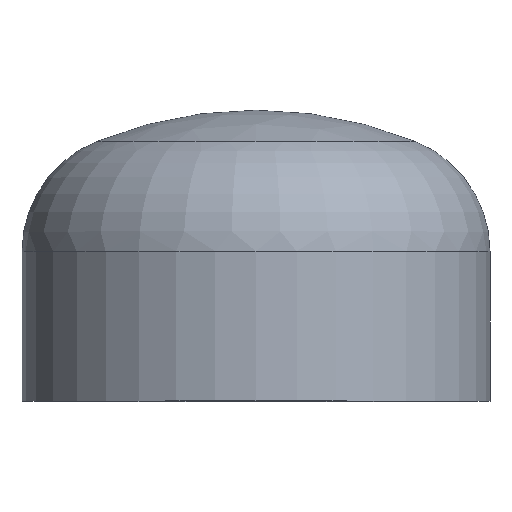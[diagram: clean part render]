
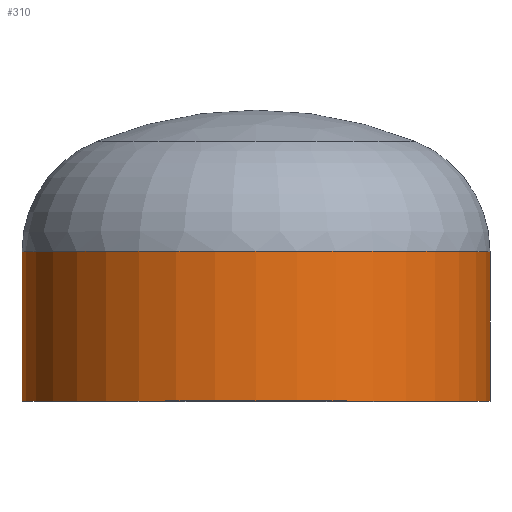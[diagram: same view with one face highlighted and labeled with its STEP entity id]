
A CAD part, top view. The second image highlights one B-rep face of the part: STEP entity #310.
In plain terms, the highlighted cylindrical face has radius 203.2 mm (diameter 406.4 mm), a partial arc.
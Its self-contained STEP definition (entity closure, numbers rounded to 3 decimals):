
#8 = VERTEX_POINT ( 'NONE', #279 ) ;
#13 = CARTESIAN_POINT ( 'NONE',  ( 0., 0., 0. ) ) ;
#18 = ORIENTED_EDGE ( 'NONE', *, *, #376, .T. ) ;
#24 = AXIS2_PLACEMENT_3D ( 'NONE', #274, #59, #297 ) ;
#35 = VERTEX_POINT ( 'NONE', #239 ) ;
#37 = CIRCLE ( 'NONE', #24, 203.2 ) ;
#59 = DIRECTION ( 'NONE',  ( 0., -1., 0. ) ) ;
#63 = VERTEX_POINT ( 'NONE', #269 ) ;
#69 = AXIS2_PLACEMENT_3D ( 'NONE', #13, #236, #248 ) ;
#74 = AXIS2_PLACEMENT_3D ( 'NONE', #97, #118, #139 ) ;
#97 = CARTESIAN_POINT ( 'NONE',  ( 0., 0., 0. ) ) ;
#102 = ORIENTED_EDGE ( 'NONE', *, *, #337, .F. ) ;
#107 = ORIENTED_EDGE ( 'NONE', *, *, #347, .F. ) ;
#110 = LINE ( 'NONE', #193, #314 ) ;
#111 = ORIENTED_EDGE ( 'NONE', *, *, #359, .T. ) ;
#118 = DIRECTION ( 'NONE',  ( 0., -1., 0. ) ) ;
#125 = VERTEX_POINT ( 'NONE', #328 ) ;
#139 = DIRECTION ( 'NONE',  ( 1., 0., 0. ) ) ;
#193 = CARTESIAN_POINT ( 'NONE',  ( -203.2, 0., 0. ) ) ;
#210 = FACE_OUTER_BOUND ( 'NONE', #380, .T. ) ;
#236 = DIRECTION ( 'NONE',  ( 0., -1., 0. ) ) ;
#239 = CARTESIAN_POINT ( 'NONE',  ( -203.2, 0., 0. ) ) ;
#248 = DIRECTION ( 'NONE',  ( 1., 0., 0. ) ) ;
#267 = VECTOR ( 'NONE', #389, 1000. ) ;
#269 = CARTESIAN_POINT ( 'NONE',  ( 203.2, 0., 0. ) ) ;
#274 = CARTESIAN_POINT ( 'NONE',  ( 0., 130., 0. ) ) ;
#275 = CIRCLE ( 'NONE', #74, 203.2 ) ;
#279 = CARTESIAN_POINT ( 'NONE',  ( 203.2, 130., 0. ) ) ;
#297 = DIRECTION ( 'NONE',  ( 1., 0., 0. ) ) ;
#310 = ADVANCED_FACE ( 'NONE', ( #210 ), #386, .T. ) ;
#314 = VECTOR ( 'NONE', #341, 1000. ) ;
#328 = CARTESIAN_POINT ( 'NONE',  ( -203.2, 130., 0. ) ) ;
#329 = LINE ( 'NONE', #391, #267 ) ;
#337 = EDGE_CURVE ( 'NONE', #8, #63, #329, .T. ) ;
#341 = DIRECTION ( 'NONE',  ( 0., -1., 0. ) ) ;
#347 = EDGE_CURVE ( 'NONE', #63, #35, #275, .T. ) ;
#359 = EDGE_CURVE ( 'NONE', #125, #35, #110, .T. ) ;
#376 = EDGE_CURVE ( 'NONE', #8, #125, #37, .T. ) ;
#380 = EDGE_LOOP ( 'NONE', ( #18, #111, #107, #102 ) ) ;
#386 = CYLINDRICAL_SURFACE ( 'NONE', #69, 203.2 ) ;
#389 = DIRECTION ( 'NONE',  ( 0., -1., 0. ) ) ;
#391 = CARTESIAN_POINT ( 'NONE',  ( 203.2, 0., 0. ) ) ;
